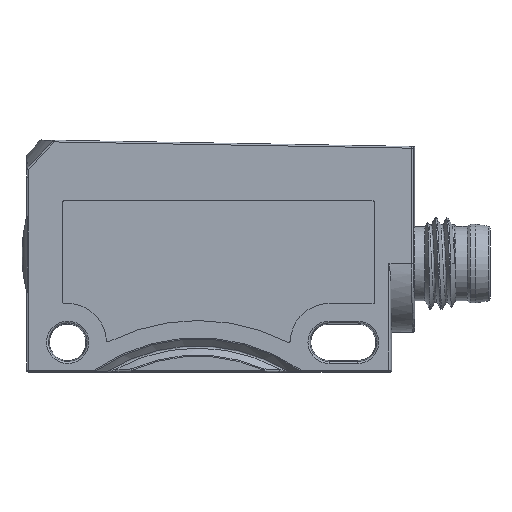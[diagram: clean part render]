
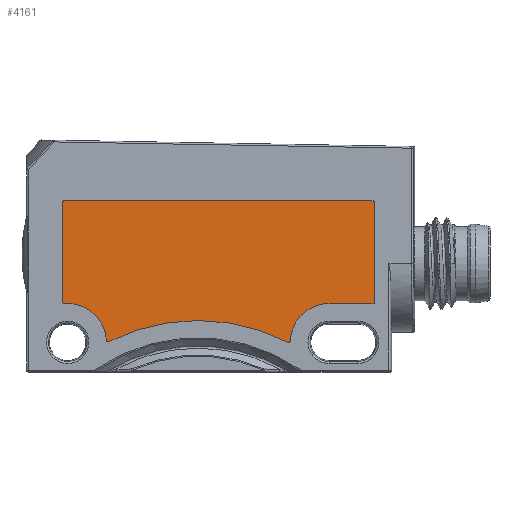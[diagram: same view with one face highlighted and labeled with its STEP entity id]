
A CAD part, left-side view. The second image highlights one B-rep face of the part: STEP entity #4161.
In plain terms, the highlighted planar face has unit normal (-1, 0, 0).
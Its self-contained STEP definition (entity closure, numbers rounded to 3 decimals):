
#51=LINE('',#7175,#380);
#57=LINE('',#7193,#386);
#58=LINE('',#7206,#387);
#59=LINE('',#7210,#388);
#60=LINE('',#7213,#389);
#380=VECTOR('',#5063,8.7);
#386=VECTOR('',#5077,0.3);
#387=VECTOR('',#5092,3.85);
#388=VECTOR('',#5095,8.7);
#389=VECTOR('',#5098,27.05);
#889=PLANE('',#4492);
#1182=FACE_OUTER_BOUND('',#1464,.T.);
#1464=EDGE_LOOP('',(#3127,#3128,#3129,#3130,#3131,#3132,#3133,#3134,#3135,
#3136,#3137,#3138,#3139,#3140));
#1764=CIRCLE('',#4490,3.4);
#1765=CIRCLE('',#4493,0.15);
#1766=CIRCLE('',#4494,0.15);
#1767=CIRCLE('',#4495,3.4);
#1768=CIRCLE('',#4496,0.15);
#1769=CIRCLE('',#4497,17.312);
#1770=CIRCLE('',#4498,0.15);
#1771=CIRCLE('',#4499,0.15);
#1772=CIRCLE('',#4500,0.15);
#2020=VERTEX_POINT('',#7169);
#2022=VERTEX_POINT('',#7173);
#2024=VERTEX_POINT('',#7178);
#2026=VERTEX_POINT('',#7182);
#2028=VERTEX_POINT('',#7187);
#2030=VERTEX_POINT('',#7191);
#2031=VERTEX_POINT('',#7195);
#2032=VERTEX_POINT('',#7198);
#2033=VERTEX_POINT('',#7200);
#2034=VERTEX_POINT('',#7202);
#2035=VERTEX_POINT('',#7205);
#2036=VERTEX_POINT('',#7207);
#2037=VERTEX_POINT('',#7209);
#2038=VERTEX_POINT('',#7211);
#2440=EDGE_CURVE('',#2020,#2022,#51,.T.);
#2444=EDGE_CURVE('',#2024,#2026,#1764,.T.);
#2448=EDGE_CURVE('',#2028,#2030,#57,.T.);
#2449=EDGE_CURVE('',#2031,#2020,#1765,.T.);
#2450=EDGE_CURVE('',#2022,#2028,#1766,.T.);
#2451=EDGE_CURVE('',#2030,#2032,#1767,.T.);
#2452=EDGE_CURVE('',#2032,#2033,#1768,.T.);
#2453=EDGE_CURVE('',#2033,#2034,#1769,.T.);
#2454=EDGE_CURVE('',#2034,#2024,#1770,.T.);
#2455=EDGE_CURVE('',#2026,#2035,#58,.T.);
#2456=EDGE_CURVE('',#2035,#2036,#1771,.T.);
#2457=EDGE_CURVE('',#2036,#2037,#59,.T.);
#2458=EDGE_CURVE('',#2037,#2038,#1772,.T.);
#2459=EDGE_CURVE('',#2038,#2031,#60,.T.);
#3127=ORIENTED_EDGE('',*,*,#2449,.T.);
#3128=ORIENTED_EDGE('',*,*,#2440,.T.);
#3129=ORIENTED_EDGE('',*,*,#2450,.T.);
#3130=ORIENTED_EDGE('',*,*,#2448,.T.);
#3131=ORIENTED_EDGE('',*,*,#2451,.T.);
#3132=ORIENTED_EDGE('',*,*,#2452,.T.);
#3133=ORIENTED_EDGE('',*,*,#2453,.T.);
#3134=ORIENTED_EDGE('',*,*,#2454,.T.);
#3135=ORIENTED_EDGE('',*,*,#2444,.T.);
#3136=ORIENTED_EDGE('',*,*,#2455,.T.);
#3137=ORIENTED_EDGE('',*,*,#2456,.T.);
#3138=ORIENTED_EDGE('',*,*,#2457,.T.);
#3139=ORIENTED_EDGE('',*,*,#2458,.T.);
#3140=ORIENTED_EDGE('',*,*,#2459,.T.);
#4161=ADVANCED_FACE('',(#1182),#889,.F.);
#4490=AXIS2_PLACEMENT_3D('',#7184,#5070,#5071);
#4492=AXIS2_PLACEMENT_3D('',#7194,#5078,#5079);
#4493=AXIS2_PLACEMENT_3D('',#7196,#5080,#5081);
#4494=AXIS2_PLACEMENT_3D('',#7197,#5082,#5083);
#4495=AXIS2_PLACEMENT_3D('',#7199,#5084,#5085);
#4496=AXIS2_PLACEMENT_3D('',#7201,#5086,#5087);
#4497=AXIS2_PLACEMENT_3D('',#7203,#5088,#5089);
#4498=AXIS2_PLACEMENT_3D('',#7204,#5090,#5091);
#4499=AXIS2_PLACEMENT_3D('',#7208,#5093,#5094);
#4500=AXIS2_PLACEMENT_3D('',#7212,#5096,#5097);
#5063=DIRECTION('',(0.,0.,-1.));
#5070=DIRECTION('center_axis',(1.,0.,0.));
#5071=DIRECTION('ref_axis',(0.,0.,1.));
#5077=DIRECTION('',(0.,-1.,0.));
#5078=DIRECTION('center_axis',(1.,0.,0.));
#5079=DIRECTION('ref_axis',(0.,0.,-1.));
#5080=DIRECTION('center_axis',(-1.,0.,0.));
#5081=DIRECTION('ref_axis',(0.,0.707,0.707));
#5082=DIRECTION('center_axis',(-1.,0.,0.));
#5083=DIRECTION('ref_axis',(0.,0.707,-0.707));
#5084=DIRECTION('center_axis',(1.,0.,0.));
#5085=DIRECTION('ref_axis',(0.,-1.,-0.014));
#5086=DIRECTION('center_axis',(-1.,0.,0.));
#5087=DIRECTION('ref_axis',(0.,0.501,-0.866));
#5088=DIRECTION('center_axis',(1.,0.,0.));
#5089=DIRECTION('ref_axis',(0.,-0.468,0.884));
#5090=DIRECTION('center_axis',(-1.,0.,0.));
#5091=DIRECTION('ref_axis',(0.,-0.504,-0.864));
#5092=DIRECTION('',(0.,-1.,0.));
#5093=DIRECTION('center_axis',(-1.,0.,0.));
#5094=DIRECTION('ref_axis',(0.,-0.707,-0.707));
#5095=DIRECTION('',(0.,0.,1.));
#5096=DIRECTION('center_axis',(-1.,0.,0.));
#5097=DIRECTION('ref_axis',(0.,-0.707,0.707));
#5098=DIRECTION('',(0.,1.,0.));
#7169=CARTESIAN_POINT('',(-5.8,12.85,7.35));
#7173=CARTESIAN_POINT('',(-5.8,12.85,-1.35));
#7175=CARTESIAN_POINT('',(-5.8,12.85,-1.5));
#7178=CARTESIAN_POINT('',(-5.8,-7.103,-4.76));
#7182=CARTESIAN_POINT('',(-5.8,-10.5,-1.5));
#7184=CARTESIAN_POINT('Origin',(-5.8,-10.5,-4.9));
#7187=CARTESIAN_POINT('',(-5.8,12.7,-1.5));
#7191=CARTESIAN_POINT('',(-5.8,12.4,-1.5));
#7193=CARTESIAN_POINT('',(-5.8,12.4,-1.5));
#7194=CARTESIAN_POINT('Origin',(-5.8,-0.724,2.049));
#7195=CARTESIAN_POINT('',(-5.8,12.7,7.5));
#7196=CARTESIAN_POINT('Origin',(-5.8,12.7,7.35));
#7197=CARTESIAN_POINT('Origin',(-5.8,12.7,-1.35));
#7198=CARTESIAN_POINT('',(-5.8,9.005,-4.713));
#7199=CARTESIAN_POINT('Origin',(-5.8,12.4,-4.9));
#7200=CARTESIAN_POINT('',(-5.8,8.788,-4.838));
#7201=CARTESIAN_POINT('Origin',(-5.8,8.855,-4.705));
#7202=CARTESIAN_POINT('',(-5.8,-6.885,-4.888));
#7203=CARTESIAN_POINT('Origin',(-5.8,1.,-20.3));
#7204=CARTESIAN_POINT('Origin',(-5.8,-6.953,-4.754));
#7205=CARTESIAN_POINT('',(-5.8,-14.35,-1.5));
#7206=CARTESIAN_POINT('',(-5.8,-14.5,-1.5));
#7207=CARTESIAN_POINT('',(-5.8,-14.5,-1.35));
#7208=CARTESIAN_POINT('Origin',(-5.8,-14.35,-1.35));
#7209=CARTESIAN_POINT('',(-5.8,-14.5,7.35));
#7210=CARTESIAN_POINT('',(-5.8,-14.5,7.5));
#7211=CARTESIAN_POINT('',(-5.8,-14.35,7.5));
#7212=CARTESIAN_POINT('Origin',(-5.8,-14.35,7.35));
#7213=CARTESIAN_POINT('',(-5.8,12.85,7.5));
